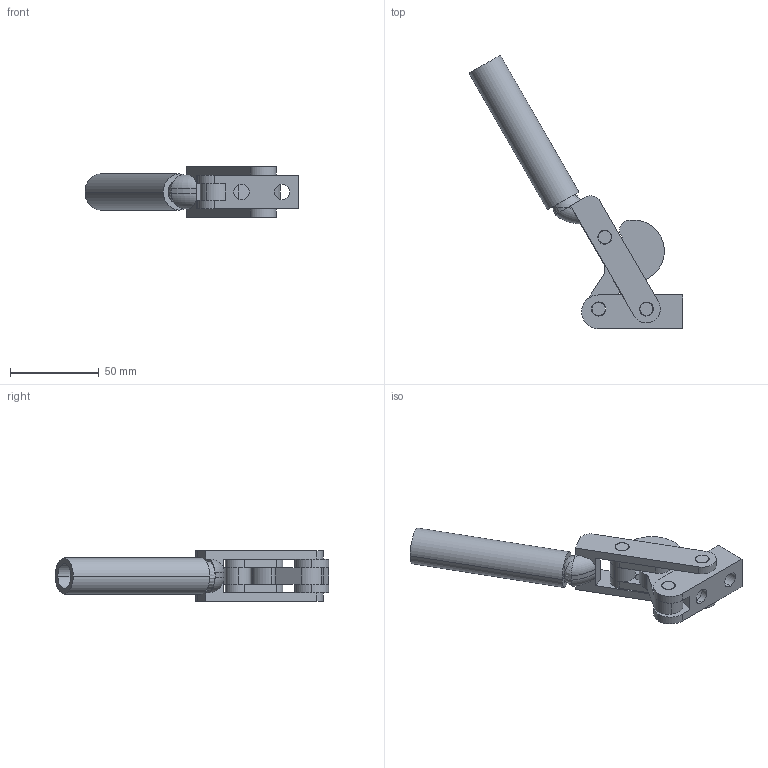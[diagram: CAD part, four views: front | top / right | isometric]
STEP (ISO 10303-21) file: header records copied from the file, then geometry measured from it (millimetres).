
FILE_DESCRIPTION( ( '' ), '1' );
FILE_NAME( 'C:\Documents and Settings\Richard Grenzke\My Documents\Wolverine Company Data\WOLVERINE CD 5_17_05\SOLIDS STEP\heavy_duty_compact\lyt977w.stp', ' ', ( '' ), ( '' ), 'ACIS Interop R16', 'Kubotek KeyCreator V5.5.1 (0454)', ' ' );
FILE_SCHEMA( ( 'CONFIG_CONTROL_DESIGN' ) );
Length unit declared in the file: inch
Products named in the file (10): 1; 2; 3; 4; 5; 6; 7; 8; 9; 10
Bounding box: 120.77 x 154.37 x 28.58 mm (x, y, z)
Volume: 60332.8 mm3; surface area: 34114.7 mm2
Topology: 9 solids, 9 shells, 129 faces, 347 edges, 234 vertices
Faces by surface type: cylinder 76, plane 45, cone 4, sphere 2, torus 2
Entity records: 4684 total; most frequent: DIRECTION 805, CARTESIAN_POINT 762, ORIENTED_EDGE 686, EDGE_CURVE 343, AXIS2_PLACEMENT_3D 329, VERTEX_POINT 234, CIRCLE 189, EDGE_LOOP 167
